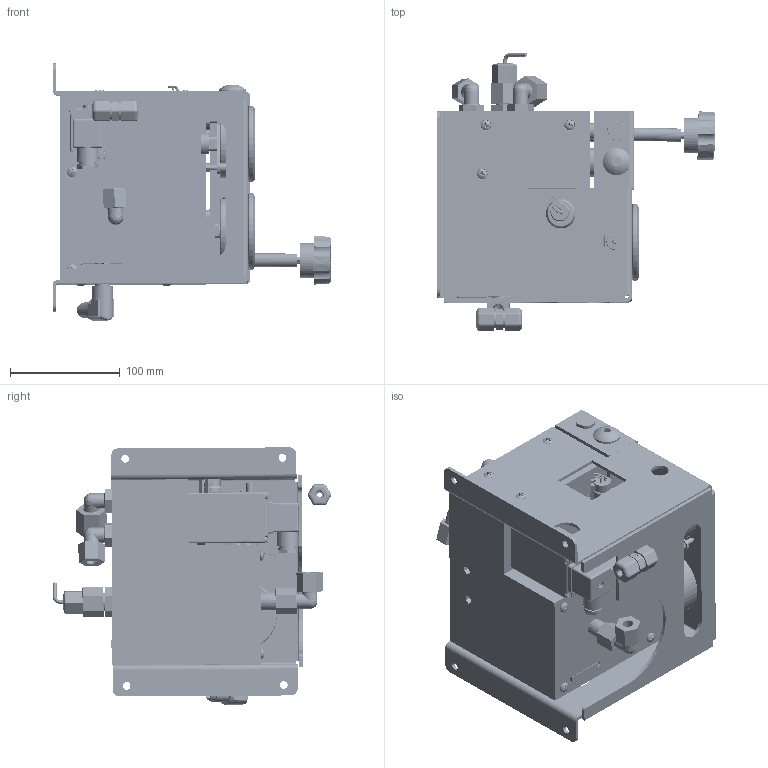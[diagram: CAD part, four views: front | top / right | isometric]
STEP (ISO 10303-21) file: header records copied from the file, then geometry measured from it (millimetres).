
FILE_DESCRIPTION(/* description */ (''),/* implementation_level */ '2;1');
FILE_NAME(/* name */ 'E:\Engineering\SRC\Leisure Marine, Product Development\2- STANDARD UNITS\HRO-MODULAR UNITS\H25M SEAFARI VERSATILE MODULAR W-TRANS\H22502210005 CONTROL MANIFOLD ASSEMBLY HRO,W-TRANSDUCER.stp',/* time_stamp */ '2015-10-20T15:51:00-07:00',/* author */ ('515746'),/* organization */ (''),/* preprocessor_version */ 'ST-DEVELOPER v15.2',/* originating_system */ 'Autodesk Inventor 2014',/* authorisation */ '');
FILE_SCHEMA (('CONFIG_CONTROL_DESIGN'));
Products named in the file (2): H22502210005 CONTROL MANIFOLD ASSEMBLY HRO,W-TRANSDUCER_Substitute_1; H22502210005 CONTROL MANIFOLD ASSEMBLY HRO,W-TRANSDUCER
Bounding box: 253.31 x 252.97 x 233.91 mm (x, y, z)
Volume: 3499872.5 mm3; surface area: 645378 mm2
Topology: 55 solids, 59 shells, 3522 faces, 10823 edges, 7669 vertices
Faces by surface type: plane 1486, cylinder 879, bspline 771, cone 253, torus 107, sphere 26
Full cylindrical faces by diameter (mm): 1.524 x12, 1.6 x2, 2.286 x1, 2.642 x2, 2.769 x2, 2.794 x1, 2.921 x1, 3.048 x1, 3.429 x2, 3.505 x25, 3.683 x12, 3.81 x2, 3.969 x1, 4.115 x2, 4.166 x2, 4.191 x2, 4.318 x1, 4.445 x5, 4.496 x3, 4.826 x147, 5.08 x2, 5.105 x10, 5.156 x1, 6.35 x6, 6.401 x2, 6.528 x4, 6.985 x5, 7.112 x4, 7.366 x1, 7.493 x1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
Entity records: 181077 total; most frequent: CARTESIAN_POINT 96834, ORIENTED_EDGE 19724, DIRECTION 12995, EDGE_CURVE 9862, VERTEX_POINT 7492, AXIS2_PLACEMENT_3D 4684, EDGE_LOOP 4420, LINE 3627
